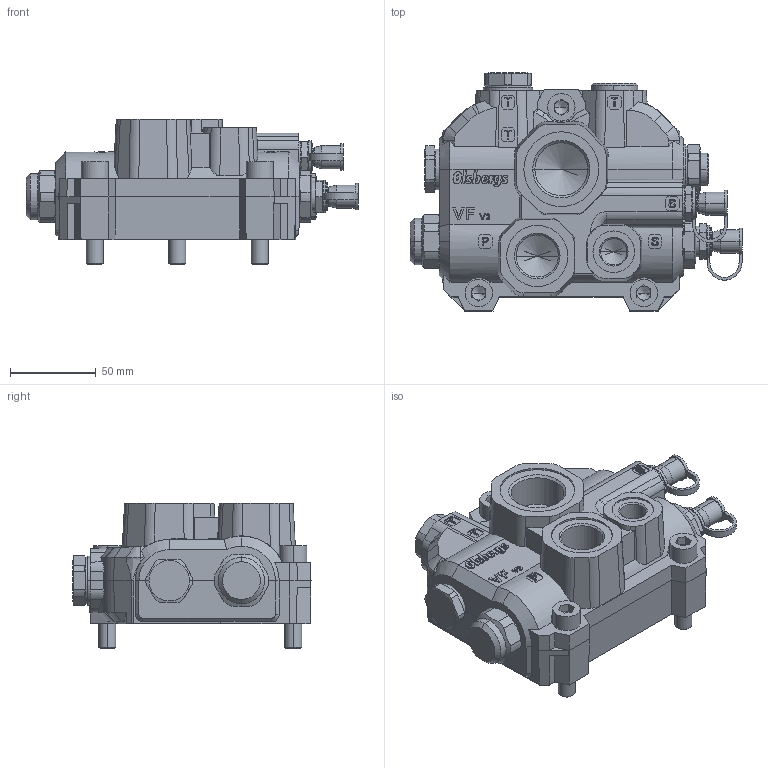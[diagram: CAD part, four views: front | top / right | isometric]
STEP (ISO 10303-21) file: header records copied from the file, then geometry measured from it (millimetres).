
FILE_DESCRIPTION (( 'STEP AP203' ), '1' );
FILE_NAME ('S-V3782.STEP', '2018-05-21T09:22:21', ( '' ), ( '' ), 'SwSTEP 2.0', 'SolidWorks 2018', '' );
FILE_SCHEMA (( 'CONFIG_CONTROL_DESIGN' ));
Products named in the file (1): S-V3782
Bounding box: 193.1 x 138.44 x 84.6 mm (x, y, z)
Volume: 917710 mm3; surface area: 111703.7 mm2
Topology: 13 solids, 13 shells, 1096 faces, 2747 edges, 1732 vertices
Faces by surface type: plane 492, cylinder 257, cone 189, bspline 122, torus 36
Entity records: 37650 total; most frequent: CARTESIAN_POINT 12868, ORIENTED_EDGE 5450, DIRECTION 4626, EDGE_CURVE 2725, VERTEX_POINT 1732, AXIS2_PLACEMENT_3D 1613, LINE 1400, VECTOR 1400
